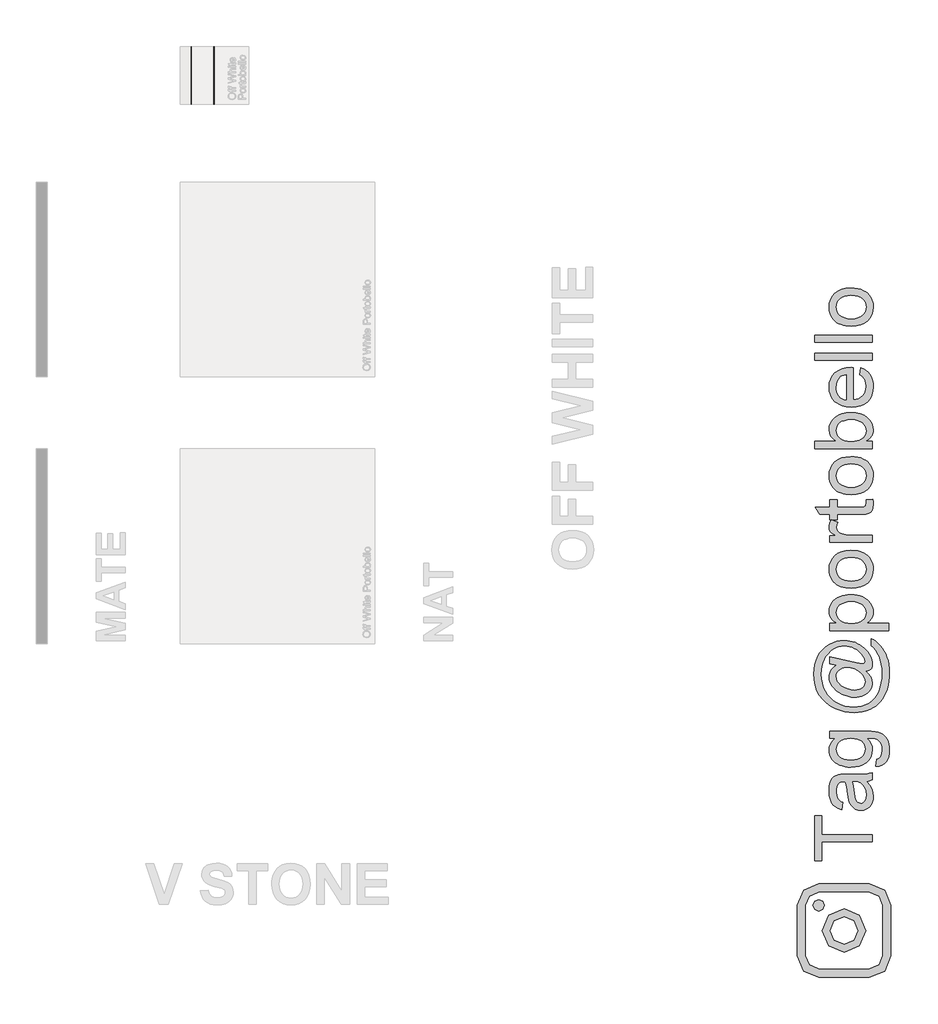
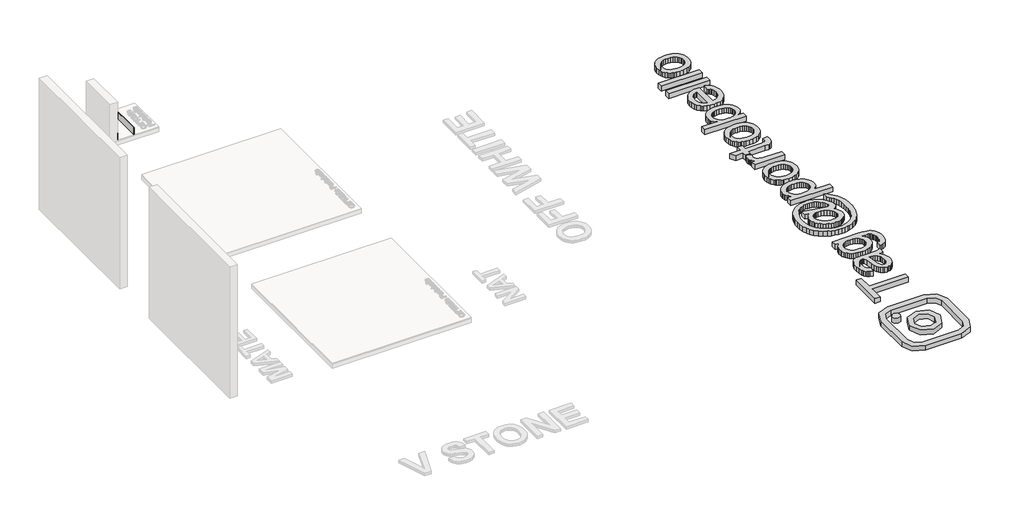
# One storey, part 4 of 8: 5 proxies.
"""IFC4 building model written with IfcOpenShell, lengths in millimetres."""

from ifc_helpers import new_model, si_unit, point, frame, frame_2d, origin, origin_with_axes, place, context, project, spatial, polyline, circle_curve, trimmed, segment, composite_curve, outline, extrude, transform, mapped, element, save
from components import generic_models_d67f6705, generic_models_04e9f25f

model = new_model("IFC4")

# Units and contexts
model_context = context("Model", 3, world=origin())
ifc_project = project(units=[si_unit("LENGTHUNIT", "METRE", prefix="MILLI")], contexts=[model_context])

# Site, building, storey
site = spatial("IfcSite", under=ifc_project)
building = spatial("IfcBuilding", under=site)
storey = spatial("IfcBuildingStorey", under=building, Name="PORTOBELLO - SHOWROOM", Elevation=0.0)

# Proxies
placement = place(None, origin())
element("IfcBuildingElementProxy", 1, Name="RODAPE V STONE OFF WHITE 15X80 NAT RET", ObjectType="RODAPE V STONE OFF WHITE 15X80 NAT RET", at=placement, inside=storey, context=model_context, shape_type="SweptSolid", body=[
    extrude(outline(composite_curve([segment(polyline([(167.0, -5820.2594677), (17.0, -5820.2594677), (17.0, -5811.2594677), (158.0, -5811.2594677)]), True, "CONTINUOUS"), segment(trimmed(circle_curve(frame_2d((158.0, -5820.2594677)), 9.0), [point((158.0, -5811.2594677))], [point((167.0, -5820.2594677))], False, "CARTESIAN"), True, "CONTINUOUS")], self_intersect=False)), frame((0.0, -1648.4150043, 0.0), z_axis=(0.0, 1.0, 0.0), x_axis=(0.0, 0.0, 1.0)), (0.0, 0.0, 1.0), 800.0),
])
generic_models_shape = generic_models_d67f6705(model_context)
element("IfcBuildingElementProxy", 2, Name="Blks_Instagram1 : Único 2", ObjectType="Blks_Instagram1 : Único 2", at=placement, inside=storey, context=model_context, shape_type="MappedRepresentation", body=[
    mapped(generic_models_shape, transform((3234.1498396, -13101.2406298, 0.0), x_axis=(-1.0, 0.0, 0.0), y_axis=(0.0, -1.0, 0.0), z_axis=(0.0, 0.0, 1.0))),
])
generic_models_2_shape = generic_models_04e9f25f(model_context)
element("IfcBuildingElementProxy", 3, Name="PORTOBELLO - RODAPE V STONE OFF WHITE 15X80 NAT RET (BASE NA LINHA) : OFF WHITE 15X80 NAT RET", ObjectType="PORTOBELLO - RODAPE V STONE OFF WHITE 15X80 NAT RET (BASE NA LINHA) : OFF WHITE 15X80 NAT RET", at=placement, inside=storey, context=model_context, shape_type="MappedRepresentation", body=[
    mapped(generic_models_2_shape, transform((-5505.2594677, -1648.4150043, 17.0), x_axis=(0.0, 1.0, 0.0), y_axis=(-1.0, 0.0, 0.0), z_axis=(0.0, 0.0, 1.0))),
])
element("IfcBuildingElementProxy", 4, Name="80mm Arial", ObjectType="80mm Arial", at=placement, inside=storey, context=model_context, shape_type="SweptSolid", body=[
    extrude(outline(polyline([(3625.8628243, -11873.1133966), (2926.3977133, -11873.1133966), (2926.3977133, -12135.4128133), (2826.474126, -12135.4128133), (2826.474126, -11510.8903927), (2926.3977133, -11510.8903927), (2926.3977133, -11773.1898093), (3625.8628243, -11773.1898093), (3625.8628243, -11873.1133966)])), origin_with_axes(), (0.0, 0.0, 1.0), 100.0),
    extrude(outline(polyline([(3550.9201338, -11036.2533531), (3591.8556269, -11083.9951647), (3607.0173724, -11108.3966706), (3618.6417838, -11133.1519099), (3633.4254005, -11184.8457774), (3638.3532727, -11240.198956), (3635.3892308, -11284.6900796), (3626.4971049, -11323.7044344), (3611.6768951, -11357.2420202), (3590.9286014, -11385.3028372), (3565.5695758, -11407.4599656), (3536.9171702, -11423.286486), (3504.9713847, -11432.7823982), (3469.7322192, -11435.9477022), (3428.308818, -11431.1662025), (3390.6911003, -11416.8217031), (3358.489163, -11394.6950689), (3333.3131029, -11366.5671646), (3314.2846854, -11333.511388), (3300.5256758, -11296.6011371), (3285.4981051, -11210.1438145), (3269.6898813, -11107.9758498), (3251.149372, -11036.8388428), (3228.9007607, -11036.2533531), (3204.6761215, -11037.9732293), (3184.3059566, -11043.1328579), (3167.7902661, -11051.7322388), (3155.1290498, -11063.7713722), (3142.4922289, -11084.5806544), (3133.4659283, -11109.9274824), (3128.050148, -11139.811856), (3126.2448878, -11174.2337754), (3131.050783, -11233.7585686), (3137.058152, -11256.7878328), (3145.4684686, -11275.3283422), (3156.9404088, -11290.5632739), (3172.1326485, -11303.6758052), (3191.0451878, -11314.6659361), (3213.6780267, -11323.5336665), (3201.1875783, -11423.4572538), (3146.5418665, -11406.1121194), (3123.6101839, -11394.237655), (3103.6059501, -11380.2285925), (3086.1266409, -11363.4811456), (3070.7697322, -11343.3915279), (3057.5352239, -11319.9597394), (3046.423116, -11293.1857802), (3031.3467544, -11231.7825406), (3026.3213006, -11161.3530004), (3030.7612646, -11093.8021183), (3044.0811569, -11040.2541998), (3064.1097861, -10999.8798011), (3088.675961, -10971.8494784), (3119.0482428, -10953.2601783), (3156.4951926, -10941.2088472), (3191.039089, -10937.5495361), (3243.9283315, -10936.3297658), (3368.2473258, -10936.3297658), (3476.5385377, -10935.0612046), (3541.8450424, -10931.2555211), (3584.7565634, -10923.7417357), (3625.8628243, -10911.3488689), (3625.8628243, -11011.2724562), (3591.1237647, -11027.2758433), (3550.9201338, -11036.2533531)]), holes=[polyline([(3351.0729593, -11036.2533531), (3367.7106269, -11103.3895133), (3381.7135905, -11197.4582029), (3389.3737483, -11249.2984429), (3397.9121408, -11283.4276173), (3408.9876556, -11305.7982056), (3424.2591804, -11322.362687), (3442.5557357, -11332.608758), (3462.7063419, -11336.0241149), (3478.2340185, -11334.1639652), (3492.4199477, -11328.5835158), (3505.2641295, -11319.2827669), (3516.766564, -11306.2617183), (3526.2441796, -11289.6423473), (3533.0139051, -11269.5466307), (3538.4296854, -11218.9261611), (3532.4528107, -11165.2562656), (3524.9817173, -11140.7632769), (3514.5221865, -11117.8315943), (3488.1019607, -11079.3844327), (3456.656281, -11052.6470666), (3424.2591804, -11040.7908988), (3379.3716314, -11036.8388428), (3351.0729593, -11036.2533531)])]), origin_with_axes(), (0.0, 0.0, 1.0), 100.0),
    extrude(outline(polyline([(3675.824618, -10823.9157301), (3688.3150664, -10723.9921428), (3705.1478972, -10719.7717374), (3719.5411874, -10712.9654188), (3731.4949369, -10703.5731871), (3741.0091456, -10691.5950422), (3750.742913, -10672.2128913), (3757.695604, -10649.5861513), (3763.2577568, -10594.5989038), (3761.6842531, -10563.3971781), (3756.9637418, -10535.9523452), (3749.096223, -10512.264405), (3738.0816968, -10492.3333574), (3724.2251056, -10475.7444806), (3707.831392, -10462.0830526), (3688.9005561, -10451.3490735), (3667.4325979, -10443.5425433), (3624.4478907, -10438.1267629), (3550.9201338, -10436.7118293), (3583.7075609, -10469.9627691), (3607.1271517, -10507.0681832), (3621.1789062, -10548.0280717), (3625.8628243, -10592.8424345), (3620.4104508, -10647.6284198), (3604.0533304, -10695.8642384), (3591.7854901, -10717.5258352), (3576.791463, -10737.5498902), (3538.6248487, -10772.6853753), (3492.8346696, -10800.5632267), (3442.7021081, -10820.4759777), (3388.2271642, -10832.4236283), (3329.4098378, -10836.4061785), (3288.2608849, -10834.6192149), (3248.7342267, -10829.2583242), (3210.829863, -10820.3235064), (3174.5477938, -10807.8147614), (3141.0955919, -10791.9211537), (3111.6808298, -10772.8317477), (3086.3035076, -10750.5465434), (3064.9636253, -10725.0655407), (3048.0576082, -10696.7973628), (3035.9818817, -10666.1506326), (3028.7364459, -10633.1253503), (3026.3213006, -10597.7215159), (3031.7858717, -10550.9921137), (3048.1795853, -10508.5806985), (3075.5024412, -10470.4872704), (3113.7544394, -10436.7118293), (3038.811749, -10436.7118293), (3038.811749, -10336.788242), (3545.6507259, -10336.788242), (3609.1580693, -10338.4959205), (3662.6754936, -10343.618956), (3706.2029986, -10352.1573485), (3739.7405844, -10364.1110979), (3766.788992, -10379.7668504), (3790.8489622, -10399.4112519), (3811.9204951, -10423.0443025), (3830.0035905, -10450.6660021), (3844.5188577, -10481.9958036), (3854.8869057, -10516.7531598), (3861.1077345, -10554.9380707), (3863.1813441, -10596.5505363), (3860.2599941, -10645.5060194), (3851.4959442, -10689.5214326), (3836.8891942, -10728.5967759), (3816.4397442, -10762.7320492), (3790.1231989, -10790.304958), (3757.9151627, -10809.6932078), (3719.8156357, -10820.8967984), (3675.824618, -10823.9157301)]), holes=[polyline([(3322.5791238, -10736.4825912), (3371.985922, -10733.817393), (3414.2326681, -10725.8217983), (3449.3193623, -10712.4958072), (3477.2460045, -10693.8394197), (3498.5492937, -10671.1577899), (3513.7659289, -10645.7560724), (3522.89591, -10617.6342669), (3525.939237, -10586.7923735), (3522.9142065, -10556.2554227), (3513.8391151, -10528.267792), (3498.7139627, -10502.8294813), (3477.5387494, -10479.9404906), (3449.8865555, -10461.0279513), (3415.3304614, -10447.5189946), (3373.8704671, -10439.4136206), (3325.5065727, -10436.7118293), (3279.1613981, -10439.4929057), (3238.8784822, -10447.8361349), (3204.657825, -10461.7415169), (3176.4994264, -10481.2090518), (3154.5130658, -10504.5920494), (3138.8085225, -10530.24382), (3129.3857965, -10558.1643633), (3126.2448878, -10588.3536796), (3129.3370057, -10618.0367911), (3138.6133592, -10645.4145367), (3154.0739484, -10670.4869163), (3175.7187734, -10693.2539299), (3203.4502523, -10712.1664692), (3237.1708037, -10725.6754259), (3276.8804276, -10733.7807999), (3322.5791238, -10736.4825912)])]), origin_with_axes(), (0.0, 0.0, 1.0), 100.0),
])
element("IfcBuildingElementProxy", 5, Name="80mm Arial", ObjectType="80mm Arial", at=placement, inside=storey, context=model_context, shape_type="SweptSolid", body=[
    extrude(outline(polyline([(3534.331257, -9505.7052888), (3571.6318344, -9542.9570753), (3600.7843459, -9584.4536627), (3619.5932047, -9628.1458368), (3625.8628243, -9671.9843833), (3624.0697619, -9695.9162776), (3618.6905746, -9719.5066362), (3609.7252625, -9742.7554591), (3597.1738256, -9765.6627463), (3580.9020891, -9787.3319667), (3560.7758783, -9806.8665889), (3536.7951932, -9824.2666129), (3508.9600337, -9839.5320389), (3478.4657749, -9851.9553999), (3446.5077917, -9860.8292293), (3413.086084, -9866.1535268), (3378.2006519, -9867.9282927), (3334.3621054, -9865.1777106), (3290.4747681, -9856.9259641), (3246.53864, -9843.1730534), (3202.5537211, -9823.9189784), (3161.2888901, -9800.5725738), (3125.5130256, -9774.5426745), (3095.2261278, -9745.8292804), (3070.4281965, -9714.4323915), (3051.1314295, -9681.9316105), (3037.3480245, -9649.9065399), (3029.0779816, -9618.3571797), (3026.3213006, -9587.28353), (3027.8887055, -9564.120091), (3032.5909202, -9541.4689555), (3051.399779, -9497.7035953), (3065.5796094, -9477.0772786), (3083.040622, -9457.9390818), (3127.8061939, -9424.1270476), (3038.811749, -9405.7817015), (3038.811749, -9305.8581142), (3405.3283445, -9388.6073349), (3489.8340346, -9405.7817015), (3503.6174396, -9402.9762297), (3515.3028395, -9394.5598142), (3523.2801376, -9382.1913429), (3525.939237, -9367.5297032), (3523.963209, -9351.8556542), (3518.0351251, -9333.9128323), (3494.3227895, -9291.22087), (3471.9583001, -9261.6231423), (3446.0442789, -9235.2822016), (3416.580726, -9212.1980477), (3383.5676415, -9192.3706806), (3348.5053427, -9176.4465786), (3312.8941472, -9165.0722201), (3276.7340551, -9158.247605), (3240.0250663, -9155.9727332), (3197.6014535, -9158.9001821), (3156.5927742, -9167.6825286), (3116.9990286, -9182.3197729), (3078.8202165, -9202.8119148), (3043.2212188, -9229.1162624), (3011.366916, -9261.1901239), (2983.2573083, -9299.0334991), (2958.8923955, -9342.646388), (2939.2114008, -9390.3577054), (2925.1535475, -9440.4963657), (2916.7188355, -9493.0623691), (2913.9072648, -9548.0557154), (2917.4750931, -9610.7885047), (2928.178578, -9670.7646129), (2946.0177194, -9727.9840401), (2970.9925174, -9782.4467864), (3002.6272615, -9832.5427548), (3040.4462412, -9876.6618484), (3084.4494567, -9914.8040674), (3134.6369079, -9946.9694116), (3188.8678978, -9972.499205), (3245.0017294, -9990.7347718), (3303.0384028, -10001.6761119), (3362.9779179, -10005.3232252), (3424.6678035, -10001.712705), (3481.9055273, -9990.8811443), (3534.6910893, -9972.828543), (3583.0244895, -9947.5549013), (3626.1189761, -9915.4444468), (3663.1877971, -9876.8814071), (3694.2309526, -9831.8657822), (3719.2484425, -9780.3975722), (3738.5025175, -9724.2332463), (3752.2554283, -9665.1292739), (3760.5071747, -9603.0856549), (3763.2577568, -9538.1023893), (3760.5254712, -9469.8562381), (3752.3286145, -9407.3917983), (3738.6671865, -9350.7090701), (3719.5411874, -9299.8080532), (3696.5119231, -9254.8107249), (3671.1406998, -9215.8390622), (3643.4275174, -9182.8930649), (3613.3723759, -9155.9727332), (3613.3723759, -9056.049146), (3642.6834575, -9072.2781905), (3672.2628885, -9093.447305), (3702.1106691, -9119.5564894), (3732.2267991, -9150.6057437), (3760.8975012, -9185.7168333), (3786.4089981, -9224.0115235), (3808.7612898, -9265.4898144), (3827.9543763, -9310.1517058), (3843.3661748, -9358.7717521), (3854.3746022, -9412.1245073), (3860.9796586, -9470.2099715), (3863.1813441, -9533.0281447), (3861.2358104, -9591.8759653), (3855.3992093, -9648.3940246), (3845.6715407, -9702.5823225), (3832.0528047, -9754.4408591), (3814.5369025, -9803.2621675), (3793.1177351, -9848.3387808), (3767.7953025, -9889.6706992), (3738.5696049, -9927.2579227), (3706.2029986, -9960.7650143), (3671.4578401, -9989.8565372), (3634.3341294, -10014.5324914), (3594.8318665, -10034.792877), (3542.2841597, -10054.6873314), (3487.6872388, -10068.897656), (3431.0411036, -10077.4238508), (3372.3457542, -10080.2659157), (3306.5879345, -10076.8749541), (3242.4158162, -10066.7020694), (3179.8293994, -10049.7472615), (3118.8286841, -10026.0105304), (3049.2834774, -9989.5515946), (2988.3864426, -9946.1399677), (2936.1375795, -9895.7756499), (2892.5368883, -9838.458641), (2858.1698586, -9774.4328952), (2833.6219802, -9703.9423665), (2818.8932532, -9626.9870549), (2813.9836776, -9543.5669605), (2817.42343, -9478.1384788), (2827.7426871, -9416.1253541), (2844.9414491, -9357.5275863), (2869.0197159, -9302.3451756), (2899.9164989, -9251.6881128), (2937.5708097, -9206.6663891), (2981.9826482, -9167.2800044), (3033.1520145, -9133.5289588), (3081.0280009, -9110.560683), (3130.9775968, -9094.1547718), (3183.0008024, -9084.311225), (3237.0976175, -9081.0300428), (3275.8283756, -9082.7316224), (3313.4674393, -9087.8363613), (3350.0148085, -9096.3442596), (3385.4704832, -9108.2553171), (3419.8344635, -9123.5695338), (3453.1067493, -9142.2869099), (3485.2873406, -9164.4074452), (3516.3762375, -9189.9311399), (3564.2766192, -9239.7465611), (3598.4911776, -9291.8063597), (3610.466273, -9318.6779006), (3619.0199126, -9346.1105358), (3624.1520964, -9374.1042654), (3625.8628243, -9402.6590894), (3622.9841663, -9435.9832154), (3614.3481922, -9462.1838826), (3600.3940193, -9481.8465807), (3581.5607651, -9495.5567994), (3562.8250925, -9501.6068604), (3534.331257, -9505.7052888)]), holes=[polyline([(3379.761958, -9768.0047054), (3412.4761988, -9765.8152176), (3441.3359654, -9759.2467543), (3466.3412576, -9748.2993154), (3487.4920755, -9732.9729009), (3504.3127087, -9714.8166192), (3516.3274466, -9695.3795786), (3523.5362894, -9674.6617792), (3525.939237, -9652.6632209), (3521.6944362, -9621.6078677), (3508.9600337, -9588.9424176), (3487.882402, -9556.2281768), (3458.6079135, -9525.0264512), (3420.7462418, -9497.3376642), (3373.9070603, -9475.1622391), (3322.4815422, -9460.5981811), (3270.8608609, -9455.7434951), (3238.433266, -9458.0183668), (3209.8479478, -9464.842982), (3185.1049062, -9476.2173405), (3164.2041412, -9492.1414425), (3147.5969679, -9511.334529), (3135.7347012, -9532.5158411), (3128.6173412, -9555.685379), (3126.2448878, -9580.8431425), (3130.3677116, -9614.3624318), (3142.736183, -9645.8325069), (3164.2041412, -9675.8144622), (3195.6254255, -9704.869392), (3235.9510334, -9730.6309418), (3284.1319623, -9750.7327572), (3334.0937559, -9763.6867184), (3379.761958, -9768.0047054)])]), origin_with_axes(), (0.0, 0.0, 1.0), 100.0),
    extrude(outline(polyline([(3850.6908957, -8943.6351103), (3038.811749, -8943.6351103), (3038.811749, -8843.711523), (3136.7837037, -8843.711523), (3088.4564023, -8811.1192591), (3069.4706768, -8793.3594028), (3053.9369013, -8774.6237302), (3041.855076, -8754.3755423), (3033.2252008, -8732.0781403), (3028.0472756, -8707.731524), (3026.3213006, -8681.3356936), (3028.7364459, -8646.4868546), (3035.9818817, -8613.7604161), (3048.0576082, -8583.1563779), (3064.9636253, -8554.6747402), (3086.2608157, -8528.9375857), (3111.510062, -8506.5669975), (3140.7113642, -8487.5629754), (3173.8647224, -8471.9255195), (3209.8357501, -8459.7156182), (3247.4900609, -8450.9942602), (3286.8276548, -8445.7614454), (3327.8485317, -8444.0171738), (3371.7053748, -8445.9871029), (3413.3056426, -8451.8968903), (3452.6493354, -8461.7465359), (3489.7364529, -8475.5360397), (3523.5972779, -8493.0763374), (3553.2620929, -8514.1783645), (3578.7308979, -8538.842121), (3600.0036928, -8567.067607), (3616.781634, -8597.470383), (3628.7658777, -8628.6660098), (3635.956424, -8660.6544873), (3638.3532727, -8693.4358155), (3636.7492747, -8717.0200753), (3631.9372807, -8739.372367), (3623.9172906, -8760.4926906), (3612.6893045, -8780.3810462), (3583.6343747, -8815.486037), (3547.7975217, -8843.711523), (3850.6908957, -8843.711523), (3850.6908957, -8943.6351103)]), holes=[polyline([(3337.0212048, -8843.711523), (3385.1777383, -8841.0097316), (3426.6011395, -8832.9043576), (3461.2914083, -8819.395401), (3489.2485448, -8800.4828617), (3510.7652938, -8777.715848), (3526.1344003, -8752.6434684), (3535.3558641, -8725.2657229), (3538.4296854, -8695.5826113), (3535.2460848, -8665.4725802), (3525.6952829, -8637.5947288), (3509.7772798, -8611.9490571), (3487.4920755, -8588.5355652), (3458.5225296, -8569.0253384), (3422.5515019, -8555.0894621), (3379.5789924, -8546.7279363), (3329.605001, -8543.9407611), (3281.8631894, -8546.660849), (3240.5129745, -8554.8211126), (3205.5543562, -8568.4215521), (3176.9873345, -8587.4621673), (3154.7875141, -8610.2840706), (3138.9304995, -8635.2283743), (3129.4162908, -8662.2950784), (3126.2448878, -8691.4841829), (3129.6175529, -8720.5818047), (3139.7355479, -8747.9595503), (3156.5988731, -8773.6174196), (3180.2075282, -8797.5554128), (3210.2443732, -8817.748711), (3246.3922676, -8832.1724954), (3288.6512115, -8840.8267661), (3337.0212048, -8843.711523)])]), origin_with_axes(), (0.0, 0.0, 1.0), 100.0),
    extrude(outline(polyline([(3332.3372866, -8356.5840349), (3256.3090006, -8351.1804522), (3222.2377652, -8344.4259739), (3190.7951349, -8334.9697043), (3161.9811098, -8322.8116433), (3135.7956897, -8307.9517909), (3112.2388748, -8290.3901473), (3091.3106649, -8270.1267123), (3062.877818, -8232.0454819), (3042.5686417, -8190.0121955), (3030.3831358, -8144.0268532), (3026.3213006, -8094.089455), (3031.2674693, -8038.9619339), (3046.1059757, -7989.1160185), (3070.8368196, -7944.5517086), (3105.460001, -7905.2690044), (3148.8045405, -7873.2073407), (3199.6994585, -7850.3061523), (3258.1447549, -7836.5654393), (3324.1404299, -7831.9852016), (3377.6273598, -7834.0100204), (3425.0886243, -7840.0844768), (3466.5242231, -7850.2085707), (3501.9341565, -7864.3823022), (3532.5198981, -7882.4288046), (3559.4829217, -7904.1712111), (3582.8232274, -7929.6095218), (3602.5408152, -7958.7437367), (3618.2087653, -7990.4394693), (3629.4001583, -8023.5623332), (3636.1149941, -8058.1123285), (3638.3532727, -8094.089455), (3633.4254005, -8150.0220245), (3618.6417838, -8200.3314527), (3594.0024227, -8245.0177396), (3559.5073171, -8284.0808851), (3515.7419569, -8315.8010132), (3463.2918317, -8338.4582475), (3402.1569416, -8352.052588), (3332.3372866, -8356.5840349)]), holes=[polyline([(3332.1421234, -8256.6604476), (3380.6096983, -8253.7695919), (3422.5758973, -8245.0970247), (3458.0407203, -8230.642746), (3487.0041674, -8210.4067558), (3509.5028315, -8185.7917901), (3525.5733059, -8158.2005847), (3535.2155905, -8127.6331397), (3538.4296854, -8094.089455), (3535.197294, -8060.7165382), (3525.5001197, -8030.2710702), (3509.3381625, -8002.753051), (3486.7114225, -7978.1624807), (3457.4613294, -7957.9264905), (3421.4293132, -7943.4722119), (3378.6153738, -7934.7996446), (3329.0195113, -7931.9087889), (3282.088847, -7934.8179412), (3241.2204413, -7943.5453981), (3206.4142943, -7958.0911595), (3177.6704059, -7978.4552256), (3155.1717418, -8003.1372787), (3139.1012674, -8030.6370013), (3129.4589827, -8060.9543934), (3126.2448878, -8094.089455), (3129.446785, -8127.6331397), (3139.0524765, -8158.2005847), (3155.0619624, -8185.7917901), (3177.4752427, -8210.4067558), (3206.3533058, -8230.642746), (3241.7571402, -8245.0970247), (3283.6867461, -8253.7695919), (3332.1421234, -8256.6604476)])]), origin_with_axes(), (0.0, 0.0, 1.0), 100.0),
    extrude(outline(polyline([(3625.8628243, -7719.5711659), (3038.811749, -7719.5711659), (3038.811749, -7632.138027), (3125.6593981, -7632.138027), (3075.3072779, -7599.8385081), (3057.8889573, -7584.6401695), (3045.6424629, -7570.0761115), (3031.1515912, -7540.2161333), (3026.3213006, -7507.6238694), (3028.2485377, -7482.8381359), (3034.0302492, -7457.857239), (3043.666435, -7432.681179), (3057.1570951, -7407.3099556), (3146.7370298, -7440.6828725), (3131.3679233, -7475.8122586), (3126.2448878, -7510.9416448), (3131.1727601, -7540.7772276), (3145.9563767, -7567.4414075), (3169.4735491, -7588.982552), (3200.6020885, -7603.4490283), (3256.4187799, -7615.5979411), (3317.3097159, -7619.6475786), (3625.8628243, -7619.6475786), (3625.8628243, -7719.5711659)])), origin_with_axes(), (0.0, 0.0, 1.0), 100.0),
    extrude(outline(polyline([(3542.5281138, -7132.5200906), (3628.7902732, -7120.0296422), (3635.9625228, -7159.5989924), (3638.3532727, -7194.7771694), (3634.2060535, -7242.7385396), (3621.7643959, -7278.5022064), (3602.589606, -7303.7758481), (3578.2429897, -7320.2671433), (3536.4292621, -7329.3422347), (3464.8531378, -7332.3672652), (3138.7353363, -7332.3672652), (3138.7353363, -7407.3099556), (3038.811749, -7407.3099556), (3038.811749, -7332.3672652), (2896.1474085, -7332.3672652), (2837.4032683, -7232.4436779), (3038.811749, -7232.4436779), (3038.811749, -7132.5200906), (3138.7353363, -7132.5200906), (3138.7353363, -7232.4436779), (3461.9256889, -7232.4436779), (3494.8106976, -7231.1263259), (3513.4487886, -7227.1742699), (3523.7680458, -7220.2703697), (3531.6965531, -7210.097485), (3536.7464023, -7195.6797994), (3538.4296854, -7176.0414968), (3542.5281138, -7132.5200906)])), origin_with_axes(), (0.0, 0.0, 1.0), 100.0),
    extrude(outline(polyline([(3332.3372866, -7057.5774001), (3256.3090006, -7052.1738174), (3222.2377652, -7045.4193391), (3190.7951349, -7035.9630695), (3161.9811098, -7023.8050085), (3135.7956897, -7008.9451561), (3112.2388748, -6991.3835125), (3091.3106649, -6971.1200775), (3062.877818, -6933.0388471), (3042.5686417, -6891.0055607), (3030.3831358, -6845.0202184), (3026.3213006, -6795.0828202), (3031.2674693, -6739.9552991), (3046.1059757, -6690.1093836), (3070.8368196, -6645.5450738), (3105.460001, -6606.2623696), (3148.8045405, -6574.2007059), (3199.6994585, -6551.2995175), (3258.1447549, -6537.5588045), (3324.1404299, -6532.9785668), (3377.6273598, -6535.0033856), (3425.0886243, -6541.077842), (3466.5242231, -6551.2019359), (3501.9341565, -6565.3756674), (3532.5198981, -6583.4221697), (3559.4829217, -6605.1645763), (3582.8232274, -6630.602887), (3602.5408152, -6659.7371019), (3618.2087653, -6691.4328345), (3629.4001583, -6724.5556984), (3636.1149941, -6759.1056936), (3638.3532727, -6795.0828202), (3633.4254005, -6851.0153897), (3618.6417838, -6901.3248179), (3594.0024227, -6946.0111048), (3559.5073171, -6985.0742503), (3515.7419569, -7016.7943784), (3463.2918317, -7039.4516127), (3402.1569416, -7053.0459532), (3332.3372866, -7057.5774001)]), holes=[polyline([(3332.1421234, -6957.6538128), (3380.6096983, -6954.7629571), (3422.5758973, -6946.0903899), (3458.0407203, -6931.6361112), (3487.0041674, -6911.400121), (3509.5028315, -6886.7851553), (3525.5733059, -6859.1939499), (3535.2155905, -6828.6265049), (3538.4296854, -6795.0828202), (3535.197294, -6761.7099034), (3525.5001197, -6731.2644353), (3509.3381625, -6703.7464162), (3486.7114225, -6679.1558459), (3457.4613294, -6658.9198557), (3421.4293132, -6644.465577), (3378.6153738, -6635.7930098), (3329.0195113, -6632.9021541), (3282.088847, -6635.8113064), (3241.2204413, -6644.5387633), (3206.4142943, -6659.0845247), (3177.6704059, -6679.4485908), (3155.1717418, -6704.1306439), (3139.1012674, -6731.6303665), (3129.4589827, -6761.9477586), (3126.2448878, -6795.0828202), (3129.446785, -6828.6265049), (3139.0524765, -6859.1939499), (3155.0619624, -6886.7851553), (3177.4752427, -6911.400121), (3206.3533058, -6931.6361112), (3241.7571402, -6946.0903899), (3283.6867461, -6954.7629571), (3332.1421234, -6957.6538128)])]), origin_with_axes(), (0.0, 0.0, 1.0), 100.0),
    extrude(outline(polyline([(3625.8628243, -6320.6409438), (3625.8628243, -6420.5645311), (2826.474126, -6420.5645311), (2826.474126, -6320.6409438), (3122.9271125, -6320.6409438), (3080.6620698, -6287.7803305), (3050.4727535, -6250.6749164), (3039.9064929, -6230.530409), (3032.3591638, -6209.3247014), (3026.3213006, -6163.7296856), (3031.7614763, -6112.2553768), (3048.0820036, -6063.6109351), (3074.2582754, -6020.5774371), (3109.2656845, -5985.935959), (3152.7626953, -5958.783871), (3204.407772, -5938.2185428), (3262.0541189, -5925.2645817), (3323.5549401, -5920.9465946), (3394.5211792, -5925.417053), (3456.9490259, -5938.828428), (3510.8384801, -5961.1807197), (3556.1895418, -5992.4739281), (3592.1361741, -6030.0367561), (3617.81234, -6071.1979067), (3633.2180395, -6115.9573798), (3638.3532727, -6164.3151754), (3636.6974345, -6188.5306663), (3631.7299197, -6211.4105087), (3623.4507284, -6232.9547026), (3611.8598607, -6253.1632479), (3596.9573164, -6272.0361447), (3578.7430956, -6289.5733929), (3532.3796245, -6320.6409438), (3625.8628243, -6320.6409438)]), holes=[polyline([(3328.2388583, -6320.6409438), (3373.2727797, -6318.9332653), (3411.5735687, -6313.8102298), (3443.1412255, -6305.2718374), (3467.9757499, -6293.3180879), (3498.7993467, -6269.1056464), (3520.8162015, -6240.9655444), (3534.0263145, -6208.8977818), (3538.4296854, -6172.9023587), (3535.1850963, -6143.0179851), (3525.4513289, -6115.2316164), (3509.2283832, -6089.5432528), (3486.5162592, -6065.9528942), (3457.3759455, -6046.2292076), (3421.8684305, -6032.14086), (3379.9937143, -6023.6878515), (3331.7517969, -6020.8701819), (3282.5950517, -6023.5719733), (3240.3178112, -6031.6773473), (3204.9200756, -6045.1863039), (3176.4018447, -6064.0988432), (3154.4581761, -6086.8414615), (3138.7841271, -6111.8406548), (3129.3796977, -6139.0964234), (3126.2448878, -6168.6087671), (3129.489477, -6198.4931407), (3139.2232444, -6226.2795093), (3155.4461901, -6251.967873), (3178.1583141, -6275.5582316), (3207.0058829, -6295.2819182), (3241.6351632, -6309.3702658), (3282.046155, -6317.8232743), (3328.2388583, -6320.6409438)])]), origin_with_axes(), (0.0, 0.0, 1.0), 100.0),
    extrude(outline(polyline([(3450.9965465, -5397.5187409), (3463.486995, -5299.5467862), (3502.7270072, -5314.5682581), (3537.3074967, -5334.8469402), (3567.2284635, -5360.3828325), (3592.4899075, -5391.1759351), (3612.5551298, -5426.9091075), (3626.8874314, -5467.2652097), (3635.4868124, -5512.2442414), (3638.3532727, -5561.8462028), (3633.4071039, -5623.8471298), (3618.5685976, -5679.0905291), (3593.8377537, -5727.5764006), (3559.2145722, -5769.3047444), (3515.6626718, -5802.8606268), (3464.145671, -5826.8291142), (3404.6635697, -5841.2102067), (3337.216368, -5846.0039042), (3267.482097, -5841.1614159), (3206.0178689, -5826.633951), (3152.8236838, -5802.4215095), (3129.3278574, -5786.6834225), (3107.8995417, -5768.5240914), (3072.2090612, -5726.9055269), (3046.7158609, -5679.5296464), (3031.4199406, -5626.3964499), (3026.3213006, -5567.5059372), (3031.4077429, -5510.5121675), (3046.66707, -5458.9707713), (3072.0992819, -5412.8817485), (3107.7043785, -5372.2450992), (3152.5309389, -5339.0734444), (3205.6275424, -5315.3794053), (3266.9941888, -5301.1629819), (3336.6308783, -5296.4241741), (3363.5634077, -5297.0096638), (3363.5634077, -5746.0803169), (3403.4377005, -5740.2925066), (3438.3597257, -5728.7839733), (3468.3294833, -5711.5547171), (3493.3469732, -5688.6047379), (3513.0706598, -5661.2025969), (3527.1590074, -5630.6168553), (3535.6120159, -5596.8475131), (3538.4296854, -5559.8945702), (3533.2090683, -5506.7125829), (3517.547217, -5461.9226155), (3505.5568744, -5442.6746394), (3490.4683152, -5425.5246682), (3472.2815392, -5410.472702), (3450.9965465, -5397.5187409)]), holes=[polyline([(3263.6398204, -5746.0803169), (3263.6398204, -5396.3477614), (3235.3655436, -5401.4829945), (3210.8481595, -5409.8628169), (3190.0876681, -5421.4872283), (3173.0840694, -5436.3562289), (3152.5919275, -5463.6058986), (3137.9546832, -5494.612461), (3129.1723367, -5529.375916), (3126.2448878, -5567.8962638), (3128.5807481, -5603.0317488), (3135.5883287, -5635.2519826), (3147.2676299, -5664.5569654), (3163.6186515, -5690.9466969), (3183.8851359, -5713.0916277), (3207.3108255, -5729.6622079), (3233.8957203, -5740.6584377), (3263.6398204, -5746.0803169)])]), origin_with_axes(), (0.0, 0.0, 1.0), 100.0),
    extrude(outline(polyline([(3625.8628243, -5196.5005868), (2826.474126, -5196.5005868), (2826.474126, -5096.5769995), (3625.8628243, -5096.5769995), (3625.8628243, -5196.5005868)])), origin_with_axes(), (0.0, 0.0, 1.0), 100.0),
    extrude(outline(polyline([(3625.8628243, -4946.6916185), (2826.474126, -4946.6916185), (2826.474126, -4846.7680312), (3625.8628243, -4846.7680312), (3625.8628243, -4946.6916185)])), origin_with_axes(), (0.0, 0.0, 1.0), 100.0),
    extrude(outline(polyline([(3332.3372866, -4721.8635471), (3256.3090006, -4716.4599645), (3222.2377652, -4709.7054861), (3190.7951349, -4700.2492165), (3161.9811098, -4688.0911555), (3135.7956897, -4673.2313032), (3112.2388748, -4655.6696595), (3091.3106649, -4635.4062245), (3062.877818, -4597.3249941), (3042.5686417, -4555.2917078), (3030.3831358, -4509.3063655), (3026.3213006, -4459.3689672), (3031.2674693, -4404.2414461), (3046.1059757, -4354.3955307), (3070.8368196, -4309.8312208), (3105.460001, -4270.5485166), (3148.8045405, -4238.4868529), (3199.6994585, -4215.5856645), (3258.1447549, -4201.8449515), (3324.1404299, -4197.2647138), (3377.6273598, -4199.2895326), (3425.0886243, -4205.363989), (3466.5242231, -4215.4880829), (3501.9341565, -4229.6618144), (3532.5198981, -4247.7083168), (3559.4829217, -4269.4507233), (3582.8232274, -4294.889034), (3602.5408152, -4324.0232489), (3618.2087653, -4355.7189815), (3629.4001583, -4388.8418454), (3636.1149941, -4423.3918407), (3638.3532727, -4459.3689672), (3633.4254005, -4515.3015368), (3618.6417838, -4565.610965), (3594.0024227, -4610.2972518), (3559.5073171, -4649.3603974), (3515.7419569, -4681.0805254), (3463.2918317, -4703.7377597), (3402.1569416, -4717.3321003), (3332.3372866, -4721.8635471)]), holes=[polyline([(3332.1421234, -4621.9399598), (3380.6096983, -4619.0491041), (3422.5758973, -4610.3765369), (3458.0407203, -4595.9222582), (3487.0041674, -4575.6862681), (3509.5028315, -4551.0713023), (3525.5733059, -4523.480097), (3535.2155905, -4492.9126519), (3538.4296854, -4459.3689672), (3535.197294, -4425.9960504), (3525.5001197, -4395.5505824), (3509.3381625, -4368.0325632), (3486.7114225, -4343.4419929), (3457.4613294, -4323.2060028), (3421.4293132, -4308.7517241), (3378.6153738, -4300.0791569), (3329.0195113, -4297.1883011), (3282.088847, -4300.0974534), (3241.2204413, -4308.8249103), (3206.4142943, -4323.3706718), (3177.6704059, -4343.7347378), (3155.1717418, -4368.4167909), (3139.1012674, -4395.9165135), (3129.4589827, -4426.2339056), (3126.2448878, -4459.3689672), (3129.446785, -4492.9126519), (3139.0524765, -4523.480097), (3155.0619624, -4551.0713023), (3177.4752427, -4575.6862681), (3206.3533058, -4595.9222582), (3241.7571402, -4610.3765369), (3283.6867461, -4619.0491041), (3332.1421234, -4621.9399598)])]), origin_with_axes(), (0.0, 0.0, 1.0), 100.0),
])

save(model, "model.ifc")
